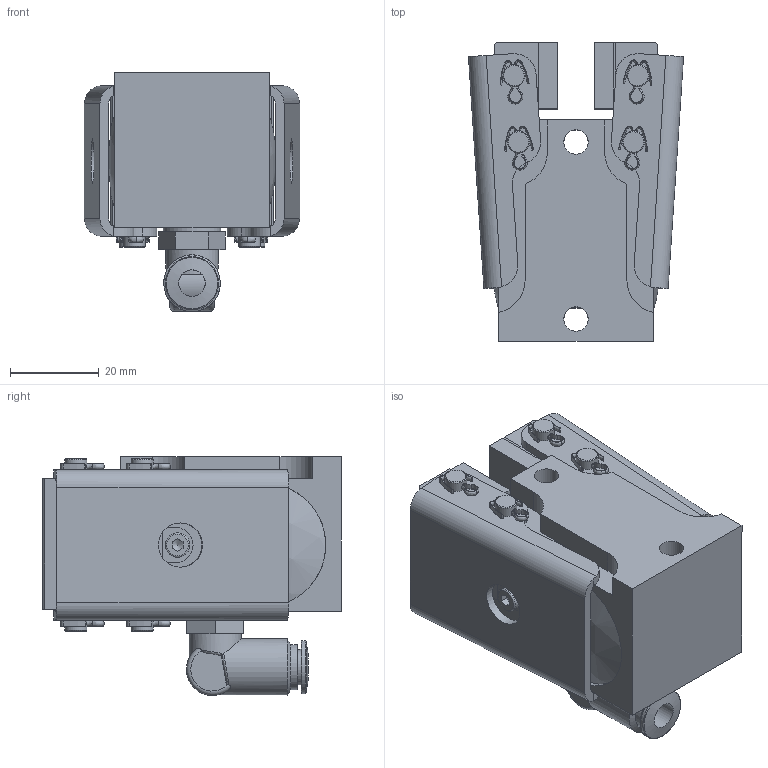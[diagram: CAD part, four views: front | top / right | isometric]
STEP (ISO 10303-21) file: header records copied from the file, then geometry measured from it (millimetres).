
FILE_DESCRIPTION(/* description */ ('','CAx-IF Rec.Pracs.---Representation and Presentation of Product Manufacturing Information (PMI)---4.0---2014-10-13'),/* implementation_level */ '2;1');
FILE_NAME(/* name */ 'X:\INVENTOR\DISEGNI\19_Pinze\STEP x Sito\PNEUM-POSITIVE\19_16_C01_02 PPC C01_08.stp',/* time_stamp */ '2018-02-16T16:37:39+01:00',/* author */ ('stefano'),/* organization */ (''),/* preprocessor_version */ 'ST-DEVELOPER v17',/* originating_system */ 'Autodesk Inventor 2018',/* authorisation */ '');
FILE_SCHEMA (('AP242_MANAGED_MODEL_BASED_3D_ENGINEERING_MIM_LF { 1 0 10303 442 1 1 4 }'));
Length unit declared in the file: millimetre
Products named in the file (1): 19_16_C01_02 PPC C01_08_Substitute_3
Bounding box: 48.62 x 67.47 x 54 mm (x, y, z)
Volume: 80456 mm3; surface area: 30923.1 mm2
Topology: 3 solids, 3 shells, 447 faces, 1313 edges, 890 vertices
Faces by surface type: plane 192, cylinder 139, bspline 85, cone 23, torus 6, sphere 2
Full cylindrical faces by diameter (mm): 1.5 x8, 2.459 x1, 4.2 x1, 5 x10, 5.5 x4, 6 x2, 6.46 x1, 8 x1, 8.566 x1, 10 x2, 10.2 x1, 11.8 x1, 12 x2, 12.8 x1, 13 x1, 16 x1, 18 x1, 28 x2
Entity records: 20930 total; most frequent: CARTESIAN_POINT 8967, ORIENTED_EDGE 2618, DIRECTION 2337, EDGE_CURVE 1309, VERTEX_POINT 890, AXIS2_PLACEMENT_3D 885, LINE 567, VECTOR 567
